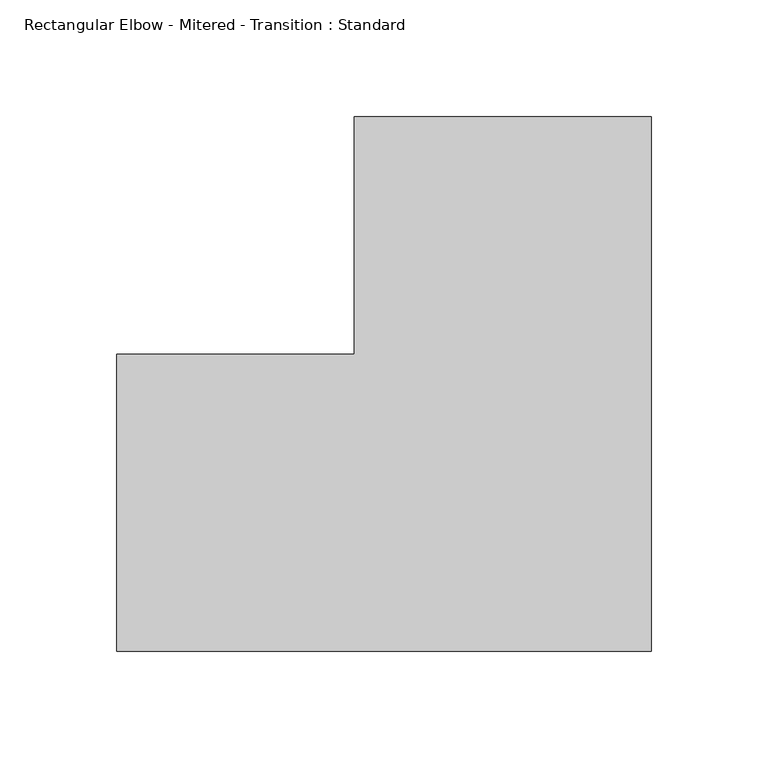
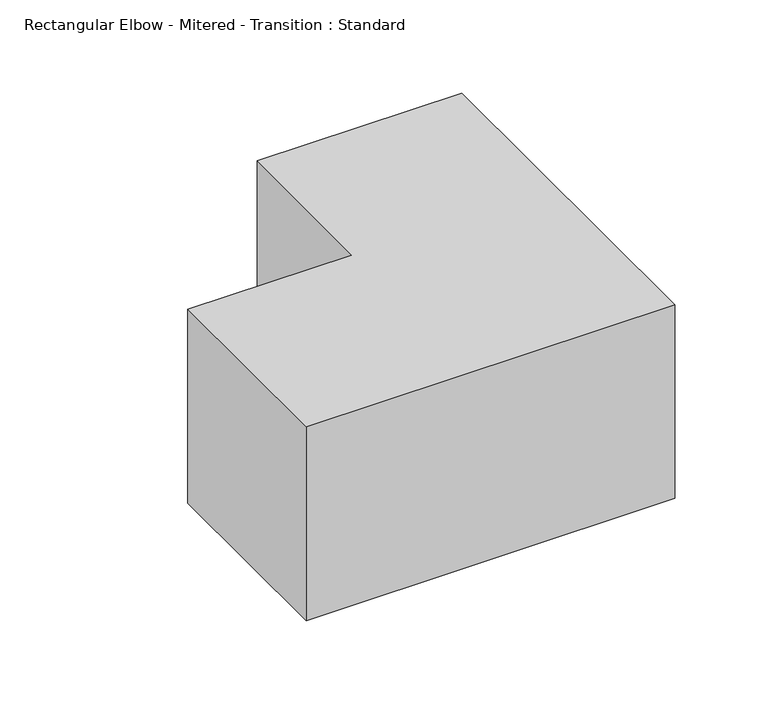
"""IFC4 building model written with IfcOpenShell, lengths in millimetres: duct fitting geometry, Rectangular Elbow - Mitered - Transition : Standard."""

from ifc_helpers import new_model, si_unit, frame, origin, place, context, project, spatial, polyline, outline, extrude, source, transform, mapped, element, save


def rectangular_elbow_mitered_transition_standard_b8ebfeb0(model_context):
    return source(origin(), model_context, "Body", "SweptSolid", [
        extrude(outline(polyline([(-63.5, 63.5), (-63.5, 165.1), (63.5, 165.1), (63.5, -63.5), (-165.1, -63.5), (-165.1, 63.5), (-63.5, 63.5)])), frame((0.0, 0.0, -63.5), z_axis=(0.0, 0.0, 1.0), x_axis=(1.0, 0.0, 0.0)), (0.0, 0.0, 1.0), 127.0),
    ])


if __name__ == "__main__":
    model = new_model("IFC4")
    model_context = context("Model", 3, world=origin())
    ifc_project = project(units=[si_unit("LENGTHUNIT", "METRE", prefix="MILLI")], contexts=[model_context])
    site = spatial("IfcSite", under=ifc_project)
    building = spatial("IfcBuilding", under=site)
    placement = place(None, origin())
    rectangular_elbow_mitered_transition_standard_shape = rectangular_elbow_mitered_transition_standard_b8ebfeb0(model_context)
    element("IfcDuctFitting", 1, ObjectType="Rectangular Elbow - Mitered - Transition : Standard", at=placement, inside=building, context=model_context, shape_type="MappedRepresentation", body=[
        mapped(rectangular_elbow_mitered_transition_standard_shape, transform((0.0, 0.0, 0.0), x_axis=(1.0, 0.0, 0.0), y_axis=(0.0, 1.0, 0.0), z_axis=(0.0, 0.0, 1.0))),
    ])
    save(model, "model.ifc")
